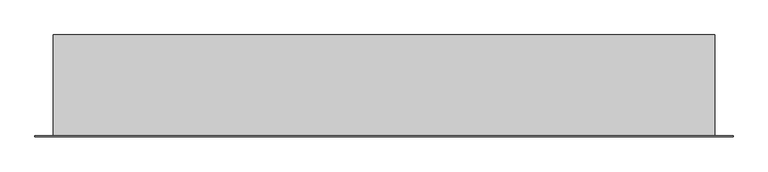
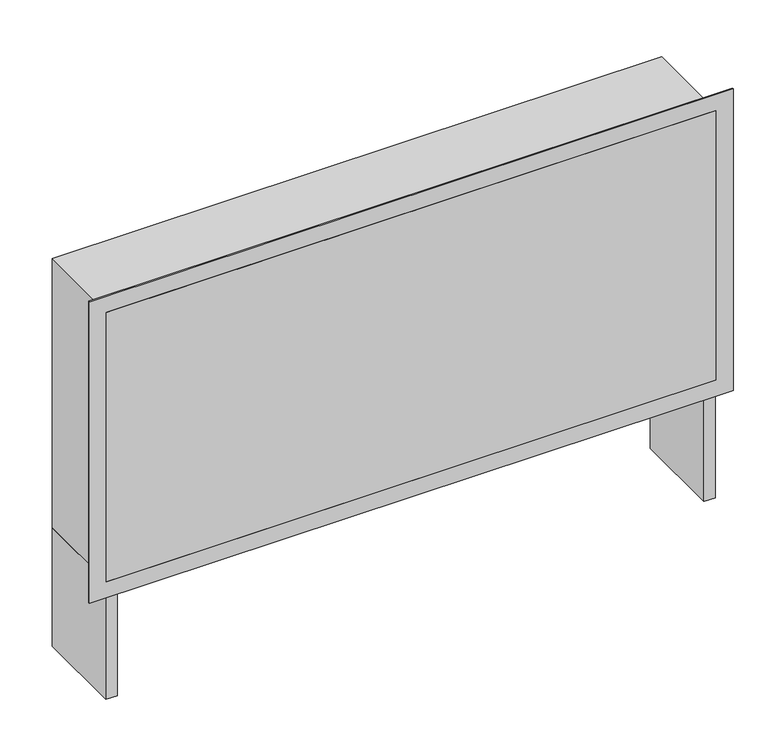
"""IFC4 building model written with IfcOpenShell, lengths in millimetres: valve geometry, PL CZ,HU Cabinet under plaster : FT-VK4 9-12 manifold loops."""

from ifc_helpers import new_model, si_unit, frame, origin, origin_with_axes, place, context, project, spatial, polyline, outline, extrude, source, transform, mapped, element, save


def valve_b03ecdcb(model_context):
    return source(origin(), model_context, "Body", "SweptSolid", [
        extrude(outline(polyline([(-515.0, 2.0), (-535.0, 2.0), (-535.0, 165.0), (-515.0, 165.0), (-515.0, 2.0)])), origin_with_axes(), (0.0, 0.0, 1.0), 220.0),
        extrude(outline(polyline([(535.0, 2.0), (515.0, 2.0), (515.0, 165.0), (535.0, 165.0), (535.0, 2.0)])), origin_with_axes(), (0.0, 0.0, 1.0), 220.0),
        extrude(outline(polyline([(535.0, 0.0), (-535.0, 0.0), (-535.0, 165.0), (535.0, 165.0), (535.0, 0.0)])), frame((0.0, 0.0, 220.0), z_axis=(0.0, 0.0, 1.0), x_axis=(1.0, 0.0, 0.0)), (0.0, 0.0, 1.0), 500.0),
        extrude(outline(polyline([(750.0, 565.0), (750.0, -565.0), (190.0, -565.0), (190.0, 565.0), (750.0, 565.0)]), holes=[polyline([(220.0, -535.0), (720.0, -535.0), (720.0, 535.0), (220.0, 535.0), (220.0, -535.0)])]), frame((0.0, 0.0, 0.0), z_axis=(0.0, 1.0, 0.0), x_axis=(0.0, 0.0, 1.0)), (0.0, 0.0, 1.0), 2.0),
    ])


if __name__ == "__main__":
    model = new_model("IFC4")
    model_context = context("Model", 3, world=origin())
    ifc_project = project(units=[si_unit("LENGTHUNIT", "METRE", prefix="MILLI")], contexts=[model_context])
    site = spatial("IfcSite", under=ifc_project)
    building = spatial("IfcBuilding", under=site)
    placement = place(None, origin())
    valve_shape = valve_b03ecdcb(model_context)
    element("IfcValve", 1, ObjectType="PL CZ,HU Cabinet under plaster : FT-VK4 9-12 manifold loops", at=placement, inside=building, context=model_context, shape_type="MappedRepresentation", body=[
        mapped(valve_shape, transform((0.0, 0.0, 0.0), x_axis=(1.0, 0.0, 0.0), y_axis=(0.0, 1.0, 0.0), z_axis=(0.0, 0.0, 1.0))),
    ])
    save(model, "model.ifc")
